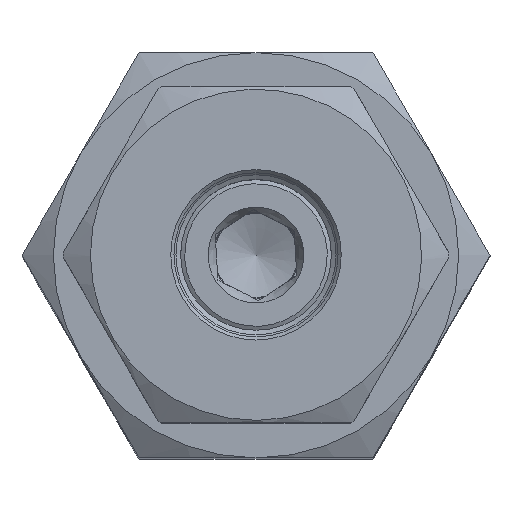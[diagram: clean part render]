
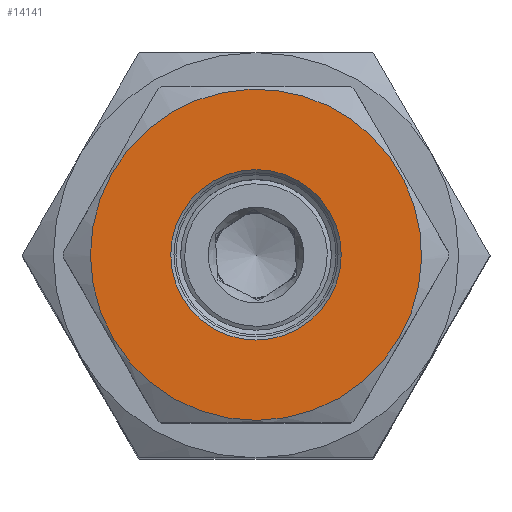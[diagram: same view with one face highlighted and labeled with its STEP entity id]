
A CAD part, top view. The second image highlights one B-rep face of the part: STEP entity #14141.
In plain terms, the highlighted planar face has unit normal (0, 0, 1) as drawn and (-1, 0, 0) by its records, which use the part's own axes.
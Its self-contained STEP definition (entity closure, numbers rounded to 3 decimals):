
#2223 = CARTESIAN_POINT ( 'NONE',  ( 0., 0., 16.75 ) ) ;
#2577 = FACE_OUTER_BOUND ( 'NONE', #14988, .T. ) ;
#2695 = CARTESIAN_POINT ( 'NONE',  ( 0., 0., 0. ) ) ;
#2759 = ORIENTED_EDGE ( 'NONE', *, *, #5655, .T. ) ;
#3087 = DIRECTION ( 'NONE',  ( 0., 0., 1. ) ) ;
#3222 = AXIS2_PLACEMENT_3D ( 'NONE', #2695, #17488, #13566 ) ;
#4286 = PLANE ( 'NONE',  #3222 ) ;
#5655 = EDGE_CURVE ( 'NONE', #14476, #14476, #21496, .T. ) ;
#12146 = CARTESIAN_POINT ( 'NONE',  ( 0., 0., 0. ) ) ;
#12193 = FACE_BOUND ( 'NONE', #23340, .T. ) ;
#12234 = CARTESIAN_POINT ( 'NONE',  ( 0., 0., 0. ) ) ;
#12604 = AXIS2_PLACEMENT_3D ( 'NONE', #12146, #23497, #17674 ) ;
#13566 = DIRECTION ( 'NONE',  ( 0., 0., 1. ) ) ;
#14141 = ADVANCED_FACE ( 'NONE', ( #12193, #2577 ), #4286, .T. ) ;
#14476 = VERTEX_POINT ( 'NONE', #20320 ) ;
#14988 = EDGE_LOOP ( 'NONE', ( #16198 ) ) ;
#16198 = ORIENTED_EDGE ( 'NONE', *, *, #16778, .T. ) ;
#16420 = DIRECTION ( 'NONE',  ( 1., 0., 0. ) ) ;
#16778 = EDGE_CURVE ( 'NONE', #17134, #17134, #20004, .T. ) ;
#17134 = VERTEX_POINT ( 'NONE', #2223 ) ;
#17488 = DIRECTION ( 'NONE',  ( -1., 0., 0. ) ) ;
#17674 = DIRECTION ( 'NONE',  ( 0., 0., 1. ) ) ;
#20004 = CIRCLE ( 'NONE', #12604, 16.75 ) ;
#20320 = CARTESIAN_POINT ( 'NONE',  ( 0., 0., 8.625 ) ) ;
#21496 = CIRCLE ( 'NONE', #21885, 8.625 ) ;
#21885 = AXIS2_PLACEMENT_3D ( 'NONE', #12234, #16420, #3087 ) ;
#23340 = EDGE_LOOP ( 'NONE', ( #2759 ) ) ;
#23497 = DIRECTION ( 'NONE',  ( -1., 0., 0. ) ) ;
